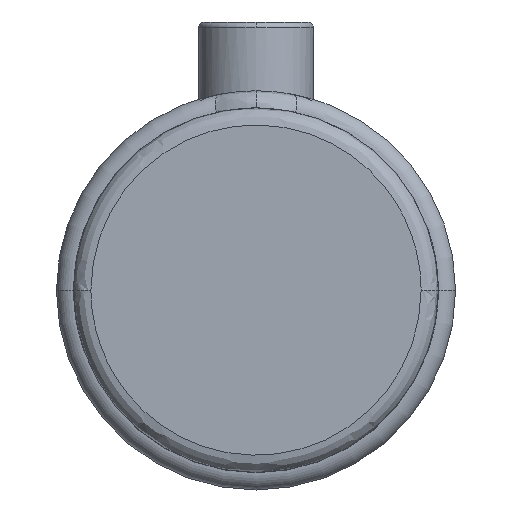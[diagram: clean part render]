
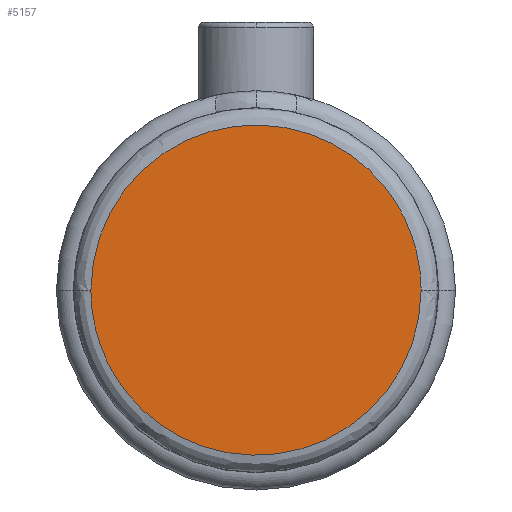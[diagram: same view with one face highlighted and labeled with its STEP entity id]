
A CAD part, top view. The second image highlights one B-rep face of the part: STEP entity #5157.
In plain terms, the highlighted planar face has unit normal (0, 0, 1).
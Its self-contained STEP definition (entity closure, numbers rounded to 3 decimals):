
#425 = DIRECTION ( 'NONE',  ( 0., 0., 1. ) ) ;
#1234 = CARTESIAN_POINT ( 'NONE',  ( -28.75, 0., 38. ) ) ;
#1718 = CARTESIAN_POINT ( 'NONE',  ( -28.75, 0., 38. ) ) ;
#1880 = EDGE_CURVE ( 'NONE', #6908, #8258, #2697, .T. ) ;
#2278 = AXIS2_PLACEMENT_3D ( 'NONE', #6970, #425, #5536 ) ;
#2692 = CARTESIAN_POINT ( 'NONE',  ( 28.75, 57.5, 38. ) ) ;
#2697 =( BOUNDED_CURVE ( )  B_SPLINE_CURVE ( 3, ( #6463, #4346, #9383, #5085 ),
 .UNSPECIFIED., .F., .F. ) 
 B_SPLINE_CURVE_WITH_KNOTS ( ( 4, 4 ),
 ( 0.25, 0.75 ),
 .UNSPECIFIED. ) 
 CURVE ( )  GEOMETRIC_REPRESENTATION_ITEM ( )  RATIONAL_B_SPLINE_CURVE ( ( 1., 0.333, 0.333, 1. ) ) 
 REPRESENTATION_ITEM ( '' )  );
#2958 = CARTESIAN_POINT ( 'NONE',  ( 28.75, 0., 38. ) ) ;
#4346 = CARTESIAN_POINT ( 'NONE',  ( 28.75, -57.5, 38. ) ) ;
#4398 = EDGE_LOOP ( 'NONE', ( #6220, #4754 ) ) ;
#4754 = ORIENTED_EDGE ( 'NONE', *, *, #5436, .F. ) ;
#5085 = CARTESIAN_POINT ( 'NONE',  ( -28.75, 0., 38. ) ) ;
#5157 = ADVANCED_FACE ( 'NONE', ( #5980 ), #7702, .T. ) ;
#5436 = EDGE_CURVE ( 'NONE', #8258, #6908, #8250, .T. ) ;
#5536 = DIRECTION ( 'NONE',  ( 0., -1., 0. ) ) ;
#5980 = FACE_OUTER_BOUND ( 'NONE', #4398, .T. ) ;
#6220 = ORIENTED_EDGE ( 'NONE', *, *, #1880, .F. ) ;
#6463 = CARTESIAN_POINT ( 'NONE',  ( 28.75, 0., 38. ) ) ;
#6908 = VERTEX_POINT ( 'NONE', #2958 ) ;
#6970 = CARTESIAN_POINT ( 'NONE',  ( 0., 15.875, 38. ) ) ;
#7095 = CARTESIAN_POINT ( 'NONE',  ( -28.75, 57.5, 38. ) ) ;
#7702 = PLANE ( 'NONE',  #2278 ) ;
#7816 = CARTESIAN_POINT ( 'NONE',  ( 28.75, 0., 38. ) ) ;
#8250 =( BOUNDED_CURVE ( )  B_SPLINE_CURVE ( 3, ( #1234, #7095, #2692, #7816 ),
 .UNSPECIFIED., .F., .F. ) 
 B_SPLINE_CURVE_WITH_KNOTS ( ( 4, 4 ),
 ( 0.75, 1.25 ),
 .UNSPECIFIED. ) 
 CURVE ( )  GEOMETRIC_REPRESENTATION_ITEM ( )  RATIONAL_B_SPLINE_CURVE ( ( 1., 0.333, 0.333, 1. ) ) 
 REPRESENTATION_ITEM ( '' )  );
#8258 = VERTEX_POINT ( 'NONE', #1718 ) ;
#9383 = CARTESIAN_POINT ( 'NONE',  ( -28.75, -57.5, 38. ) ) ;
